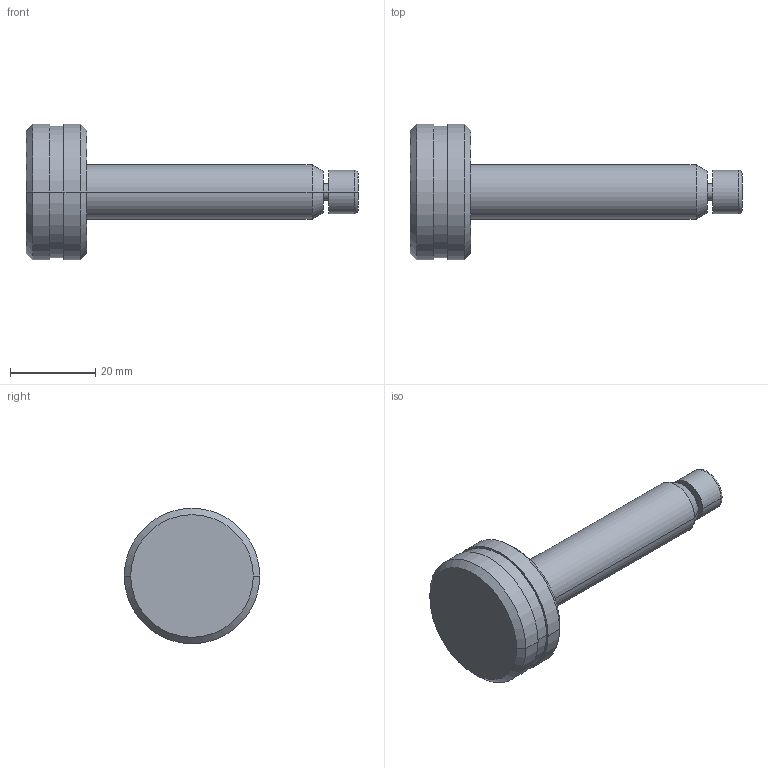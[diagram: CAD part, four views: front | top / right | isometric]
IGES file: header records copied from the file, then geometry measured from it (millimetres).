
Start section:  PTC IGES file: sch348-part.igs
Global section: file name: sch348-part.igs; native system: Pro/ENGINEER by Parametric Technology Corporation; preprocessor: 2002350; author: chant; organization: Unknown; date: 070530.082014; units: inch
Bounding box: 77.72 x 31.75 x 31.75 mm (x, y, z)
Surface area: 5593.5 mm2 (no closed solid volume)
Topology: 0 solids, 0 shells, 33 faces, 172 edges, 194 vertices
Faces by surface type: revolution 26, bspline 7
